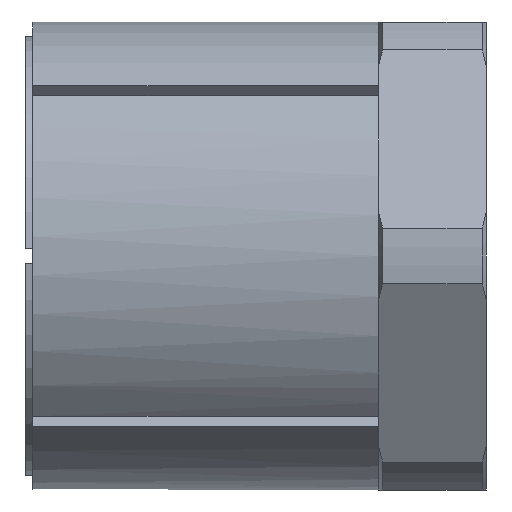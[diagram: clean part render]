
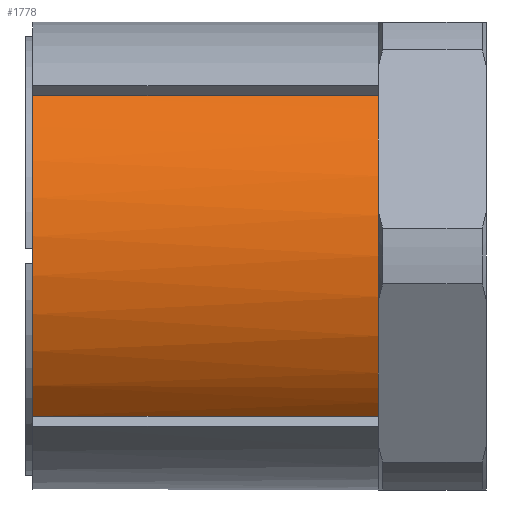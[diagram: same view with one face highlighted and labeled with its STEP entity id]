
A CAD part, front view. The second image highlights one B-rep face of the part: STEP entity #1778.
In plain terms, the highlighted cylindrical face has radius 32.5 mm (diameter 65 mm), a partial arc.
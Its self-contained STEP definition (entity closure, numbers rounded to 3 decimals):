
#21 = AXIS2_PLACEMENT_3D ( 'NONE', #1147, #1148, #1155 ) ;
#195 = DIRECTION ( 'NONE',  ( 0., 0., 1. ) ) ;
#196 = DIRECTION ( 'NONE',  ( -1., 0., 0. ) ) ;
#281 = CARTESIAN_POINT ( 'NONE',  ( 0., 0., 0. ) ) ;
#406 = DIRECTION ( 'NONE',  ( 1., 0., 0. ) ) ;
#407 = CARTESIAN_POINT ( 'NONE',  ( 0., -23.677, -22.263 ) ) ;
#408 = DIRECTION ( 'NONE',  ( 0., 0., 1. ) ) ;
#409 = DIRECTION ( 'NONE',  ( -1., 0., 0. ) ) ;
#411 = DIRECTION ( 'NONE',  ( -1., 0., 0. ) ) ;
#412 = CARTESIAN_POINT ( 'NONE',  ( 0., -23.677, 22.263 ) ) ;
#413 = DIRECTION ( 'NONE',  ( 0., 0., 1. ) ) ;
#414 = DIRECTION ( 'NONE',  ( -1., 0., 0. ) ) ;
#416 = CARTESIAN_POINT ( 'NONE',  ( 48., 0., 0. ) ) ;
#417 = DIRECTION ( 'NONE',  ( 0., 0., 1. ) ) ;
#418 = DIRECTION ( 'NONE',  ( -1., 0., 0. ) ) ;
#419 = CARTESIAN_POINT ( 'NONE',  ( 48., 0., 0. ) ) ;
#425 = CARTESIAN_POINT ( 'NONE',  ( 48., 0., 0. ) ) ;
#437 = VERTEX_POINT ( 'NONE', #867 ) ;
#445 = VERTEX_POINT ( 'NONE', #777 ) ;
#451 = VERTEX_POINT ( 'NONE', #774 ) ;
#463 = VERTEX_POINT ( 'NONE', #782 ) ;
#670 = VERTEX_POINT ( 'NONE', #2197 ) ;
#701 = VERTEX_POINT ( 'NONE', #2169 ) ;
#734 = AXIS2_PLACEMENT_3D ( 'NONE', #416, #414, #413 ) ;
#735 = AXIS2_PLACEMENT_3D ( 'NONE', #425, #418, #417 ) ;
#755 = AXIS2_PLACEMENT_3D ( 'NONE', #281, #196, #195 ) ;
#758 = AXIS2_PLACEMENT_3D ( 'NONE', #419, #409, #408 ) ;
#774 = CARTESIAN_POINT ( 'NONE',  ( 0., -23.677, -22.263 ) ) ;
#777 = CARTESIAN_POINT ( 'NONE',  ( 48., -23.677, 22.263 ) ) ;
#782 = CARTESIAN_POINT ( 'NONE',  ( 0., -23.677, 22.263 ) ) ;
#867 = CARTESIAN_POINT ( 'NONE',  ( 48., -23.677, -22.263 ) ) ;
#1147 = CARTESIAN_POINT ( 'NONE',  ( 0., 0., 0. ) ) ;
#1148 = DIRECTION ( 'NONE',  ( -1., 0., 0. ) ) ;
#1155 = DIRECTION ( 'NONE',  ( 0., 0., 1. ) ) ;
#1397 = FACE_OUTER_BOUND ( 'NONE', #2615, .T. ) ;
#1402 = CYLINDRICAL_SURFACE ( 'NONE', #21, 32.5 ) ;
#1552 = CIRCLE ( 'NONE', #755, 32.5 ) ;
#1555 = LINE ( 'NONE', #412, #1559 ) ;
#1559 = VECTOR ( 'NONE', #411, 1000. ) ;
#1560 = LINE ( 'NONE', #407, #1563 ) ;
#1562 = CIRCLE ( 'NONE', #735, 32.5 ) ;
#1563 = VECTOR ( 'NONE', #406, 1000. ) ;
#1564 = CIRCLE ( 'NONE', #734, 32.5 ) ;
#1567 = CIRCLE ( 'NONE', #758, 32.5 ) ;
#1778 = ADVANCED_FACE ( 'NONE', ( #1397 ), #1402, .T. ) ;
#2060 = EDGE_CURVE ( 'NONE', #451, #463, #1552, .T. ) ;
#2068 = EDGE_CURVE ( 'NONE', #437, #670, #1562, .T. ) ;
#2069 = EDGE_CURVE ( 'NONE', #670, #701, #1564, .T. ) ;
#2070 = EDGE_CURVE ( 'NONE', #445, #463, #1555, .T. ) ;
#2071 = EDGE_CURVE ( 'NONE', #701, #445, #1567, .T. ) ;
#2072 = EDGE_CURVE ( 'NONE', #451, #437, #1560, .T. ) ;
#2169 = CARTESIAN_POINT ( 'NONE',  ( 48., -28.146, 16.25 ) ) ;
#2197 = CARTESIAN_POINT ( 'NONE',  ( 48., -28.146, -16.25 ) ) ;
#2270 = ORIENTED_EDGE ( 'NONE', *, *, #2069, .T. ) ;
#2277 = ORIENTED_EDGE ( 'NONE', *, *, #2072, .T. ) ;
#2279 = ORIENTED_EDGE ( 'NONE', *, *, #2068, .T. ) ;
#2615 = EDGE_LOOP ( 'NONE', ( #2643, #2642, #2641, #2277, #2279, #2270 ) ) ;
#2641 = ORIENTED_EDGE ( 'NONE', *, *, #2060, .F. ) ;
#2642 = ORIENTED_EDGE ( 'NONE', *, *, #2070, .T. ) ;
#2643 = ORIENTED_EDGE ( 'NONE', *, *, #2071, .T. ) ;
